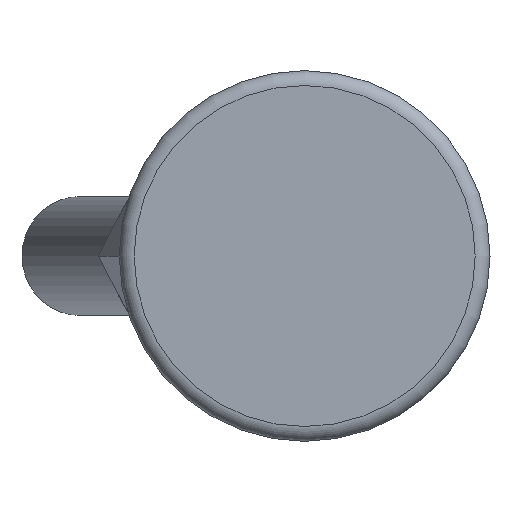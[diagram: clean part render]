
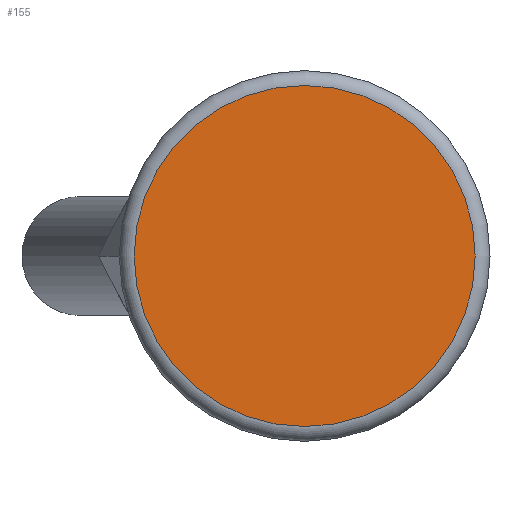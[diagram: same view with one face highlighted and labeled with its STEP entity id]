
A CAD part, front view. The second image highlights one B-rep face of the part: STEP entity #155.
In plain terms, the highlighted planar face has unit normal (0, -1, 0).
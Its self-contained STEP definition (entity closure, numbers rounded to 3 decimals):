
#155 = ADVANCED_FACE( '', ( #309 ), #310, .F. );
#309 = FACE_OUTER_BOUND( '', #491, .T. );
#310 = PLANE( '', #492 );
#491 = EDGE_LOOP( '', ( #705 ) );
#492 = AXIS2_PLACEMENT_3D( '', #706, #707, #708 );
#705 = ORIENTED_EDGE( '', *, *, #1016, .T. );
#706 = CARTESIAN_POINT( '', ( 11.5, 0., 0. ) );
#707 = DIRECTION( '', ( 0., 1., 0. ) );
#708 = DIRECTION( '', ( 0., 0., 1. ) );
#1016 = EDGE_CURVE( '', #1163, #1163, #1164, .T. );
#1163 = VERTEX_POINT( '', #1379 );
#1164 = CIRCLE( '', #1380, 11.5 );
#1379 = CARTESIAN_POINT( '', ( 0., 0., -11.5 ) );
#1380 = AXIS2_PLACEMENT_3D( '', #1809, #1810, #1811 );
#1809 = CARTESIAN_POINT( '', ( 0., 0., 0. ) );
#1810 = DIRECTION( '', ( 0., -1., 0. ) );
#1811 = DIRECTION( '', ( 0., 0., -1. ) );
